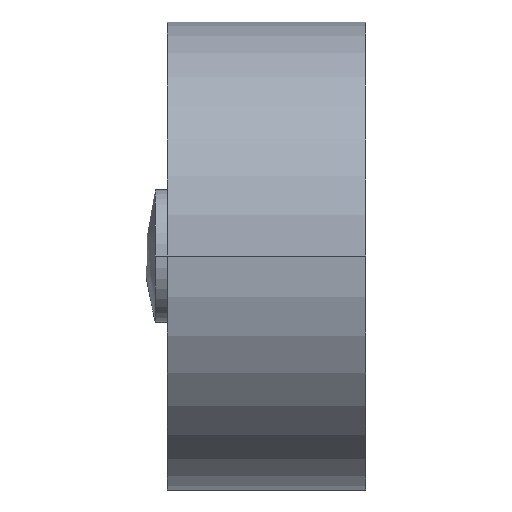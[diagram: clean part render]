
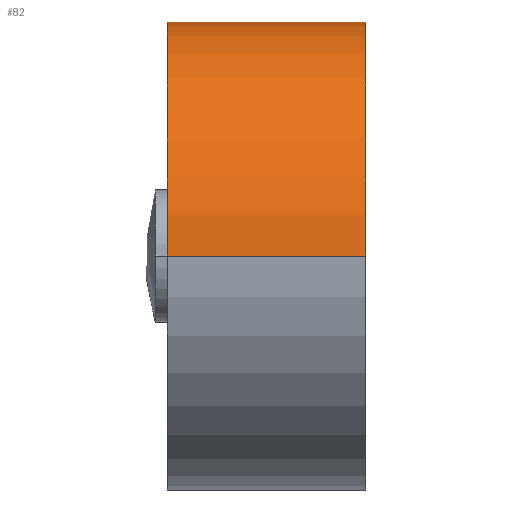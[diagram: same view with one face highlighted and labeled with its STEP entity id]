
A CAD part, left-side view. The second image highlights one B-rep face of the part: STEP entity #82.
In plain terms, the highlighted cylindrical face has radius 5.3 mm (diameter 10.6 mm), a partial arc.
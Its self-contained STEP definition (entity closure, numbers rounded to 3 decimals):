
#82=ADVANCED_FACE('',(#130),#131,.T.);
#130=FACE_OUTER_BOUND('',#215,.T.);
#131=CYLINDRICAL_SURFACE('',#216,5.3);
#215=EDGE_LOOP('',(#345,#346,#347,#348,#349,#350,#351,#352,#353));
#216=AXIS2_PLACEMENT_3D('',#354,#355,#356);
#345=ORIENTED_EDGE('',*,*,#637,.F.);
#346=ORIENTED_EDGE('',*,*,#638,.T.);
#347=ORIENTED_EDGE('',*,*,#639,.F.);
#348=ORIENTED_EDGE('',*,*,#640,.F.);
#349=ORIENTED_EDGE('',*,*,#641,.F.);
#350=ORIENTED_EDGE('',*,*,#642,.T.);
#351=ORIENTED_EDGE('',*,*,#643,.T.);
#352=ORIENTED_EDGE('',*,*,#644,.T.);
#353=ORIENTED_EDGE('',*,*,#645,.T.);
#354=CARTESIAN_POINT('',(0.0,2.25,0.0));
#355=DIRECTION('',(0.0,-1.0,0.0));
#356=DIRECTION('',(1.0,0.0,0.0));
#637=EDGE_CURVE('',#767,#768,#769,.T.);
#638=EDGE_CURVE('',#767,#770,#771,.T.);
#639=EDGE_CURVE('',#772,#770,#773,.T.);
#640=EDGE_CURVE('',#774,#772,#775,.T.);
#641=EDGE_CURVE('',#776,#774,#777,.T.);
#642=EDGE_CURVE('',#776,#778,#779,.T.);
#643=EDGE_CURVE('',#778,#780,#781,.T.);
#644=EDGE_CURVE('',#780,#782,#783,.T.);
#645=EDGE_CURVE('',#782,#768,#784,.T.);
#767=VERTEX_POINT('',#938);
#768=VERTEX_POINT('',#939);
#769=LINE('',#940,#941);
#770=VERTEX_POINT('',#942);
#771=CIRCLE('',#943,5.3);
#772=VERTEX_POINT('',#944);
#773=LINE('',#945,#946);
#774=VERTEX_POINT('',#947);
#775=CIRCLE('',#948,5.3);
#776=VERTEX_POINT('',#949);
#777=LINE('',#950,#951);
#778=VERTEX_POINT('',#952);
#779=B_SPLINE_CURVE_WITH_KNOTS('',3,(#953,#954,#955,#956,#957,#958),.UNSPECIFIED.,.F.,.F.,(4,2,4),(0.581,0.629,0.662),.UNSPECIFIED.);
#780=VERTEX_POINT('',#959);
#781=B_SPLINE_CURVE_WITH_KNOTS('',3,(#960,#961,#962,#963,#964,#965,#966,#967,#968,#969,#970,#971,#972,#973,#974),.UNSPECIFIED.,.F.,.F.,(4,2,2,3,2,2,4),(-0.105,-0.095,-0.047,0.0,0.047,0.095,0.105),.UNSPECIFIED.);
#782=VERTEX_POINT('',#975);
#783=B_SPLINE_CURVE_WITH_KNOTS('',3,(#976,#977,#978,#979,#980,#981,#982,#983,#984,#985,#986,#987,#988,#989,#990),.UNSPECIFIED.,.F.,.F.,(4,2,2,3,2,2,4),(-0.105,-0.095,-0.047,0.0,0.047,0.095,0.105),.UNSPECIFIED.);
#784=B_SPLINE_CURVE_WITH_KNOTS('',3,(#991,#992,#993,#994,#995,#996),.UNSPECIFIED.,.F.,.F.,(4,2,4),(0.112,0.148,0.194),.UNSPECIFIED.);
#938=CARTESIAN_POINT('',(5.3,4.5,0.0));
#939=CARTESIAN_POINT('',(5.3,3.188,0.0));
#940=CARTESIAN_POINT('',(5.3,2.25,0.));
#941=VECTOR('',#1208,1.0);
#942=CARTESIAN_POINT('',(-5.3,4.5,0.));
#943=AXIS2_PLACEMENT_3D('',#1209,#1210,#1211);
#944=CARTESIAN_POINT('',(-5.3,0.0,0.));
#945=CARTESIAN_POINT('',(-5.3,2.25,0.));
#946=VECTOR('',#1212,1.0);
#947=CARTESIAN_POINT('',(5.3,0.0,0.0));
#948=AXIS2_PLACEMENT_3D('',#1213,#1214,#1215);
#949=CARTESIAN_POINT('',(5.3,0.812,0.));
#950=CARTESIAN_POINT('',(5.3,2.25,0.));
#951=VECTOR('',#1216,1.0);
#952=CARTESIAN_POINT('',(5.238,1.047,0.809));
#953=CARTESIAN_POINT('',(5.3,0.812,0.));
#954=CARTESIAN_POINT('',(5.3,0.812,0.158));
#955=CARTESIAN_POINT('',(5.292,0.838,0.329));
#956=CARTESIAN_POINT('',(5.267,0.931,0.603));
#957=CARTESIAN_POINT('',(5.253,0.984,0.712));
#958=CARTESIAN_POINT('',(5.238,1.047,0.809));
#959=CARTESIAN_POINT('',(5.219,2.844,0.922));
#960=CARTESIAN_POINT('',(5.238,1.047,0.809));
#961=CARTESIAN_POINT('',(5.234,1.069,0.835));
#962=CARTESIAN_POINT('',(5.23,1.092,0.86));
#963=CARTESIAN_POINT('',(5.207,1.227,0.995));
#964=CARTESIAN_POINT('',(5.187,1.367,1.091));
#965=CARTESIAN_POINT('',(5.158,1.675,1.218));
#966=CARTESIAN_POINT('',(5.15,1.842,1.25));
#967=CARTESIAN_POINT('',(5.15,2.0,1.25));
#968=CARTESIAN_POINT('',(5.15,2.158,1.25));
#969=CARTESIAN_POINT('',(5.158,2.325,1.218));
#970=CARTESIAN_POINT('',(5.187,2.633,1.091));
#971=CARTESIAN_POINT('',(5.207,2.773,0.995));
#972=CARTESIAN_POINT('',(5.23,2.908,0.86));
#973=CARTESIAN_POINT('',(5.234,2.931,0.835));
#974=CARTESIAN_POINT('',(5.238,2.953,0.809));
#975=CARTESIAN_POINT('',(5.238,2.953,0.809));
#976=CARTESIAN_POINT('',(5.238,1.047,0.809));
#977=CARTESIAN_POINT('',(5.234,1.069,0.835));
#978=CARTESIAN_POINT('',(5.23,1.092,0.86));
#979=CARTESIAN_POINT('',(5.207,1.227,0.995));
#980=CARTESIAN_POINT('',(5.187,1.367,1.091));
#981=CARTESIAN_POINT('',(5.158,1.675,1.218));
#982=CARTESIAN_POINT('',(5.15,1.842,1.25));
#983=CARTESIAN_POINT('',(5.15,2.0,1.25));
#984=CARTESIAN_POINT('',(5.15,2.158,1.25));
#985=CARTESIAN_POINT('',(5.158,2.325,1.218));
#986=CARTESIAN_POINT('',(5.187,2.633,1.091));
#987=CARTESIAN_POINT('',(5.207,2.773,0.995));
#988=CARTESIAN_POINT('',(5.23,2.908,0.86));
#989=CARTESIAN_POINT('',(5.234,2.931,0.835));
#990=CARTESIAN_POINT('',(5.238,2.953,0.809));
#991=CARTESIAN_POINT('',(5.238,2.953,0.809));
#992=CARTESIAN_POINT('',(5.254,3.018,0.708));
#993=CARTESIAN_POINT('',(5.268,3.074,0.593));
#994=CARTESIAN_POINT('',(5.293,3.164,0.317));
#995=CARTESIAN_POINT('',(5.3,3.188,0.153));
#996=CARTESIAN_POINT('',(5.3,3.188,0.));
#1208=DIRECTION('',(0.0,-1.0,0.0));
#1209=CARTESIAN_POINT('',(0.0,4.5,0.0));
#1210=DIRECTION('',(0.0,-1.0,0.0));
#1211=DIRECTION('',(1.0,0.0,0.0));
#1212=DIRECTION('',(0.0,1.0,0.0));
#1213=CARTESIAN_POINT('',(0.0,0.0,0.0));
#1214=DIRECTION('',(0.0,-1.0,0.0));
#1215=DIRECTION('',(1.0,0.0,0.0));
#1216=DIRECTION('',(0.0,-1.0,0.0));
